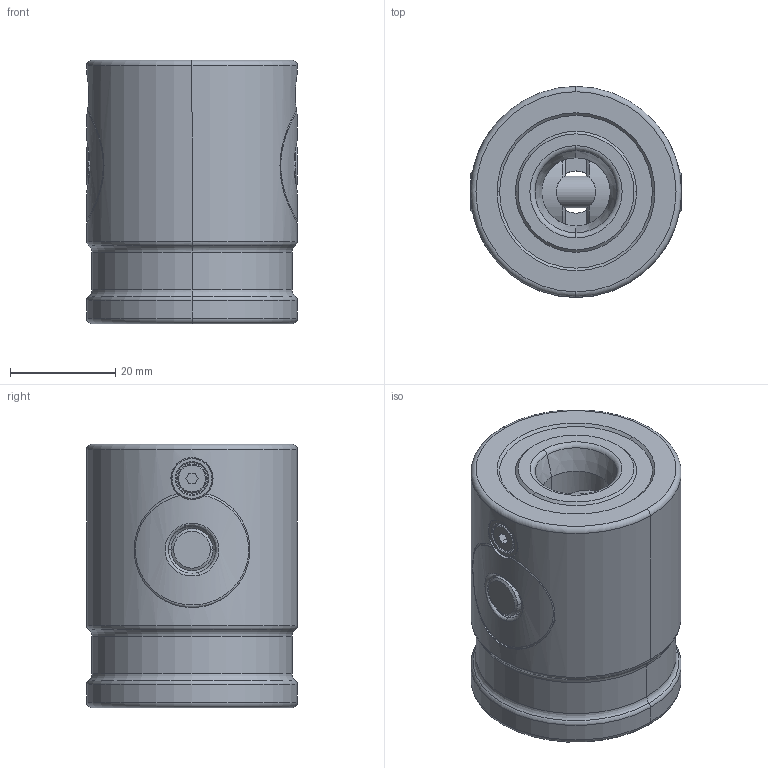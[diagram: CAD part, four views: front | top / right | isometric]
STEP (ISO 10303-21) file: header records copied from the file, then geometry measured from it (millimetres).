
FILE_DESCRIPTION (( 'STEP AP203' ), '1' );
FILE_NAME ('cp152-08050.STEP', '2021-10-25T23:52:52', ( '' ), ( '' ), 'SwSTEP 2.0', 'SolidWorks 2020', '' );
FILE_SCHEMA (( 'CONFIG_CONTROL_DESIGN' ));
Length unit declared in the file: millimetre
Products named in the file (5): cp152-08050_02; cp152-08050_04; cp152-08050_03; cp152-08050; cp152-08050_01
Assembly tree (4 placements, depth 2):
  cp152-08050
    cp152-08050_01
    cp152-08050_02
    cp152-08050_03
    cp152-08050_04
Bounding box: 40 x 40 x 50 mm (x, y, z)
Volume: 55299.7 mm3; surface area: 17123 mm2
Topology: 4 solids, 6 shells, 241 faces, 544 edges, 332 vertices
Faces by surface type: cylinder 84, cone 64, plane 59, torus 28, bspline 6
Entity records: 9659 total; most frequent: CARTESIAN_POINT 3668, DIRECTION 1224, ORIENTED_EDGE 1088, EDGE_CURVE 544, AXIS2_PLACEMENT_3D 512, VERTEX_POINT 332, EDGE_LOOP 276, CIRCLE 270
